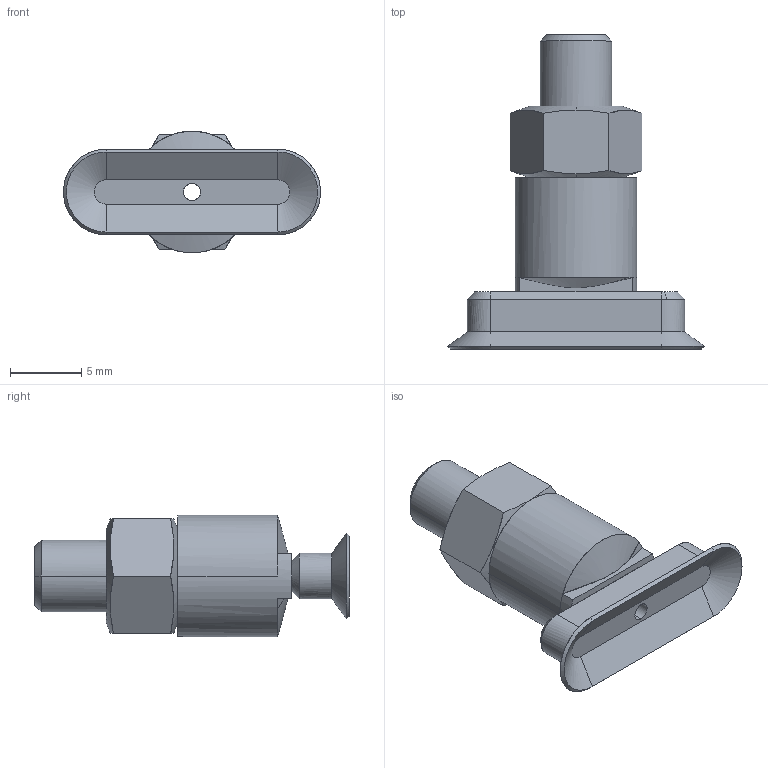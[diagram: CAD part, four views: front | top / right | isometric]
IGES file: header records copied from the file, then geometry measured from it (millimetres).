
Start section: --------------------------------------------------- ROBERT BOSCH GmbH, D-70442 Stuttgart Model-Name:      1820415122 Drawing-Name:    &dwg_name Format:          DIN &format Alle Rechte bei ROBERT BOSCH GmbH, auch fuer den Fall von Schutzrechtsanmeldungen. Jede Verfuegungs- befugnis, wie Kopier- und Weitergabe, bei uns. THIS DRAWING IS THE EXCLUSIVE PROPERTY OF ROBERT BOSCH GMBH. WITHOUT THEIR CONS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
Global section: file name: 1820415122.igs; native system: Pro/ENGINEER by Parametric Technology Corporation; preprocessor: 2011490; author: pma1hc; organization: Unknown; date: 20150505.141750; units: millimetre
Bounding box: 18 x 22 x 8.5 mm (x, y, z)
Surface area: 949.4 mm2 (no closed solid volume)
Topology: 0 solids, 0 shells, 53 faces, 244 edges, 244 vertices
Faces by surface type: bspline 27, revolution 26
